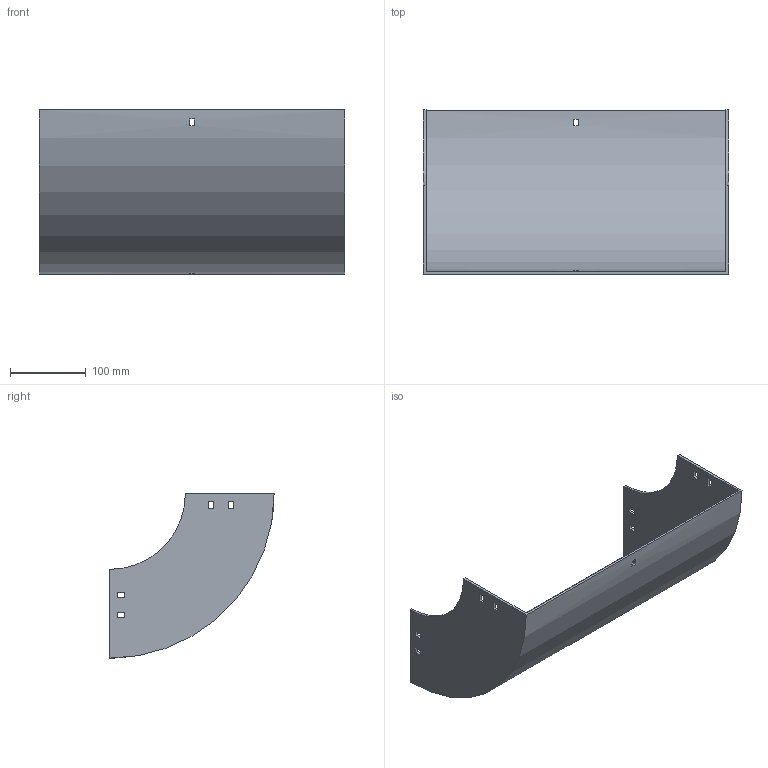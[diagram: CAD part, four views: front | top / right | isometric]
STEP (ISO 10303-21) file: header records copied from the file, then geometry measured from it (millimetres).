
FILE_DESCRIPTION (( 'STEP AP214' ), '1' );
FILE_NAME ('30B1J400.step', '2025-02-21T09:49:09', ( '' ), ( '' ), 'SwSTEP 2.0', 'SolidWorks 2023', '' );
FILE_SCHEMA (( 'AUTOMOTIVE_DESIGN' ));
Length unit declared in the file: millimetre
Products named in the file (1): 30B1J400
Bounding box: 404 x 217.5 x 217.5 mm (x, y, z)
Volume: 673631.7 mm3; surface area: 391644.9 mm2
Topology: 1 solids, 1 shells, 50 faces, 144 edges, 96 vertices
Faces by surface type: plane 46, cylinder 4
Entity records: 1687 total; most frequent: CARTESIAN_POINT 291, ORIENTED_EDGE 288, DIRECTION 262, EDGE_CURVE 144, LINE 128, VECTOR 128, VERTEX_POINT 96, EDGE_LOOP 70
